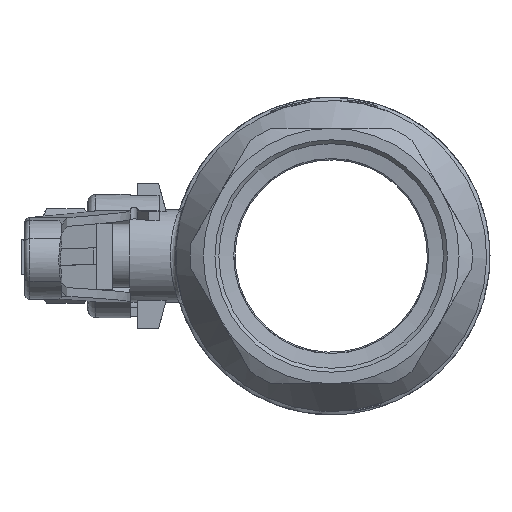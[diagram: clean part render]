
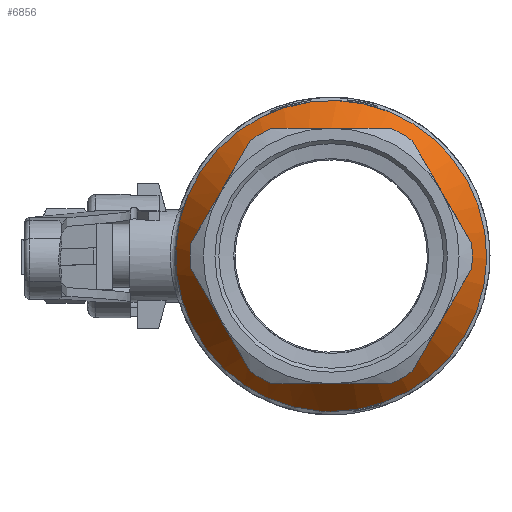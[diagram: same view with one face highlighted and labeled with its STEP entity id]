
A CAD part, left-side view. The second image highlights one B-rep face of the part: STEP entity #6856.
In plain terms, the highlighted conical face has half-angle 35.628 degrees and reference radius 59 mm.
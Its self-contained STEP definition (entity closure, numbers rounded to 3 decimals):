
#1656=FACE_BOUND('',#2229,.T.);
#1777=FACE_OUTER_BOUND('',#2228,.T.);
#2228=EDGE_LOOP('',(#4910));
#2229=EDGE_LOOP('',(#4911));
#2770=CIRCLE('',#7311,59.);
#2780=CIRCLE('',#7328,48.25);
#3131=VERTEX_POINT('',#13479);
#3153=VERTEX_POINT('',#13868);
#3851=EDGE_CURVE('',#3131,#3131,#2770,.T.);
#3876=EDGE_CURVE('',#3153,#3153,#2780,.T.);
#4910=ORIENTED_EDGE('',*,*,#3876,.F.);
#4911=ORIENTED_EDGE('',*,*,#3851,.T.);
#6798=CONICAL_SURFACE('',#7327,59.,35.628);
#6856=ADVANCED_FACE('',(#1777,#1656),#6798,.T.);
#7311=AXIS2_PLACEMENT_3D('',#13480,#7958,#7959);
#7327=AXIS2_PLACEMENT_3D('',#13867,#7996,#7997);
#7328=AXIS2_PLACEMENT_3D('',#13869,#7998,#7999);
#7958=DIRECTION('center_axis',(-1.,0.,0.));
#7959=DIRECTION('ref_axis',(0.,0.,1.));
#7996=DIRECTION('center_axis',(1.,0.,0.));
#7997=DIRECTION('ref_axis',(0.,0.,-1.));
#7998=DIRECTION('center_axis',(-1.,0.,0.));
#7999=DIRECTION('ref_axis',(0.,0.,1.));
#13479=CARTESIAN_POINT('',(-60.481,-0.365,-34.666));
#13480=CARTESIAN_POINT('Origin',(-60.481,-4.669,24.177));
#13867=CARTESIAN_POINT('Origin',(-60.481,-4.669,24.177));
#13868=CARTESIAN_POINT('',(-75.481,-4.669,-24.073));
#13869=CARTESIAN_POINT('Origin',(-75.481,-4.669,24.177));
